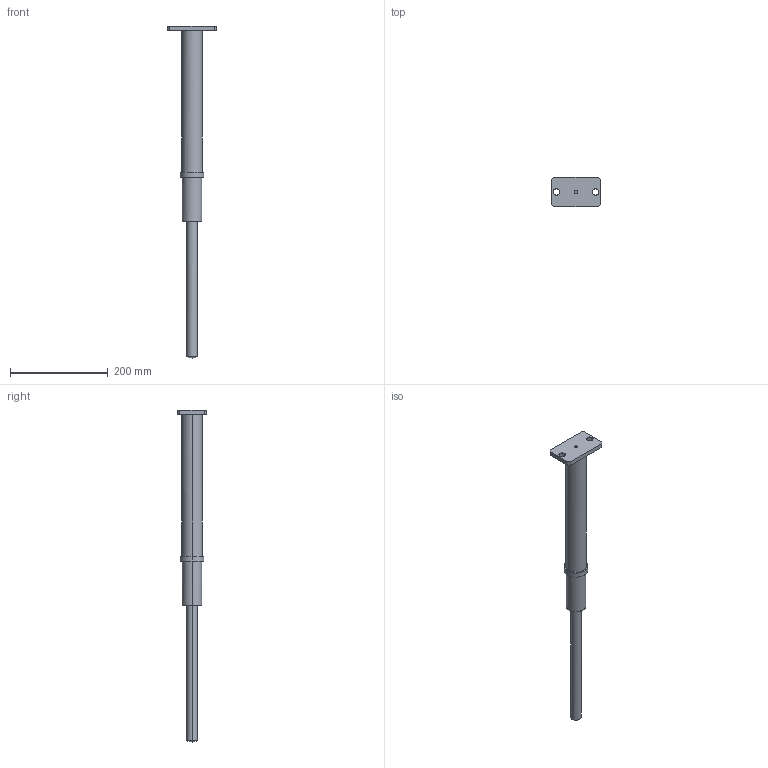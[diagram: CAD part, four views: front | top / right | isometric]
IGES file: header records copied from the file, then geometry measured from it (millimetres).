
Global section: file name: E:\UnigraphicsGraphicData\MISUMI_PRESS-PARTS\IGES\3d_papgs270-90_01667_r00.igs; native system: NX V5.0; preprocessor: UGS NX IGES V5.0; author: MISUMI; date: 20110105.162219; units: millimetre
Bounding box: 100 x 60 x 679 mm (x, y, z)
Surface area: 90496.6 mm2 (no closed solid volume)
Topology: 0 solids, 0 shells, 31 faces, 264 edges, 262 vertices
Faces by surface type: bspline 31
